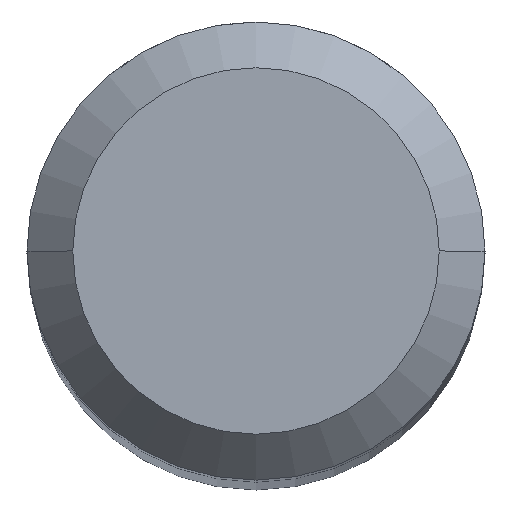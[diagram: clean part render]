
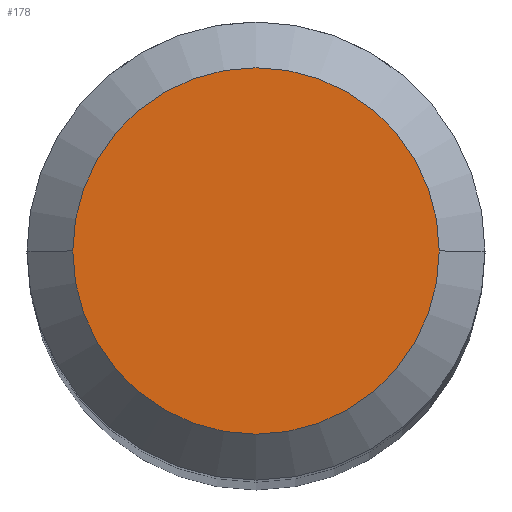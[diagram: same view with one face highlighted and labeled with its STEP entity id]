
A CAD part, top view. The second image highlights one B-rep face of the part: STEP entity #178.
In plain terms, the highlighted planar face has unit normal (0, 0, 1).
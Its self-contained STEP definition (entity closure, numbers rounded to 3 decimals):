
#15 = DIRECTION ( 'NONE',  ( -1., 0., 0. ) ) ;
#61 = AXIS2_PLACEMENT_3D ( 'NONE', #200, #412, #15 ) ;
#75 = AXIS2_PLACEMENT_3D ( 'NONE', #570, #400, #445 ) ;
#86 = EDGE_CURVE ( 'NONE', #283, #434, #415, .T. ) ;
#178 = ADVANCED_FACE ( 'NONE', ( #439 ), #208, .T. ) ;
#185 = AXIS2_PLACEMENT_3D ( 'NONE', #545, #409, #362 ) ;
#200 = CARTESIAN_POINT ( 'NONE',  ( 0., 0., 0. ) ) ;
#208 = PLANE ( 'NONE',  #75 ) ;
#220 = CIRCLE ( 'NONE', #185, 8. ) ;
#246 = ORIENTED_EDGE ( 'NONE', *, *, #86, .F. ) ;
#270 = EDGE_CURVE ( 'NONE', #434, #283, #220, .T. ) ;
#283 = VERTEX_POINT ( 'NONE', #542 ) ;
#361 = CARTESIAN_POINT ( 'NONE',  ( 8., 0., 0. ) ) ;
#362 = DIRECTION ( 'NONE',  ( -1., 0., 0. ) ) ;
#400 = DIRECTION ( 'NONE',  ( 0., 0., 1. ) ) ;
#409 = DIRECTION ( 'NONE',  ( 0., 0., -1. ) ) ;
#412 = DIRECTION ( 'NONE',  ( 0., 0., -1. ) ) ;
#415 = CIRCLE ( 'NONE', #61, 8. ) ;
#434 = VERTEX_POINT ( 'NONE', #361 ) ;
#439 = FACE_OUTER_BOUND ( 'NONE', #528, .T. ) ;
#445 = DIRECTION ( 'NONE',  ( 1., 0., 0. ) ) ;
#528 = EDGE_LOOP ( 'NONE', ( #246, #557 ) ) ;
#542 = CARTESIAN_POINT ( 'NONE',  ( -8., 0., 0. ) ) ;
#545 = CARTESIAN_POINT ( 'NONE',  ( 0., 0., 0. ) ) ;
#557 = ORIENTED_EDGE ( 'NONE', *, *, #270, .F. ) ;
#570 = CARTESIAN_POINT ( 'NONE',  ( 0., 8., 0. ) ) ;
